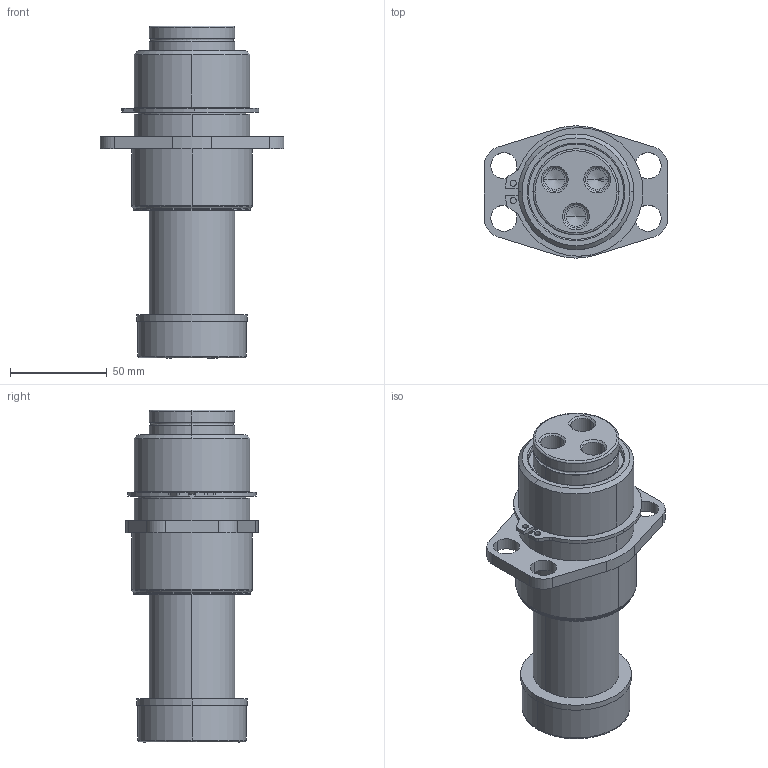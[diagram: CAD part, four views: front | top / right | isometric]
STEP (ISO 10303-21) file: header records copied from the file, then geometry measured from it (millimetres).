
FILE_DESCRIPTION (( 'STEP AP214' ), '1' );
FILE_NAME ('GK180-N3-2-BP-M-XXX.STEP', '2020-09-22T11:34:38', ( '' ), ( '' ), 'SwSTEP 2.0', 'SolidWorks 2017', '' );
FILE_SCHEMA (( 'AUTOMOTIVE_DESIGN' ));
Length unit declared in the file: inch
Products named in the file (7): GK180-M-XXX-GuidePin; GK180-DampeningWasher; GK180-N3-2-BP-M-XXX; GK1.75-N3-2-BP-Base; RetainingRing
Assembly tree (6 placements, depth 3):
  GK180-N3-2-BP-M-XXX
    GK1.75-N3-2-BP-Base
      GK1.75-N3-2-BP-Base
      RetainingRing
    GK180-M-XXX-GuidePin
      GK180-M-XXX-GuidePin
      GK180-DampeningWasher
Bounding box: 94.79 x 68.33 x 171.45 mm (x, y, z)
Volume: 395830.2 mm3; surface area: 74373.1 mm2
Topology: 4 solids, 4 shells, 149 faces, 344 edges, 210 vertices
Faces by surface type: cylinder 69, bspline 30, plane 26, cone 24
Entity records: 5818 total; most frequent: CARTESIAN_POINT 2046, DIRECTION 738, ORIENTED_EDGE 676, EDGE_CURVE 338, AXIS2_PLACEMENT_3D 302, VERTEX_POINT 210, EDGE_LOOP 178, CIRCLE 172
